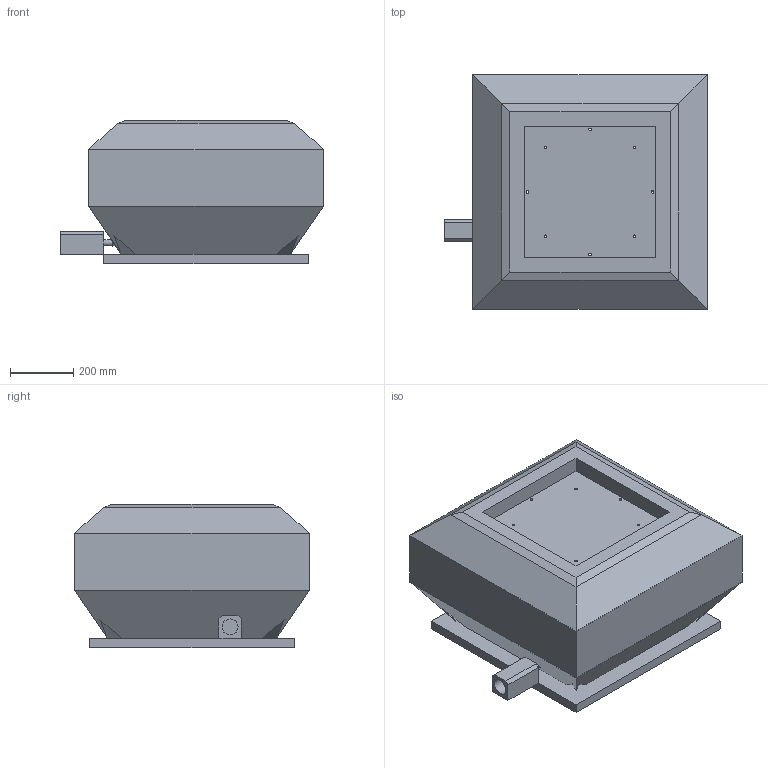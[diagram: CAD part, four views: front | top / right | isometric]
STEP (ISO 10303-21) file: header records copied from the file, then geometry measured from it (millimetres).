
FILE_DESCRIPTION(/* description */ (''),/* implementation_level */ '2;1');
FILE_NAME(/* name */ 'Z:\Output\VDD_355-4-07318-001.stp',/* time_stamp */ '2017-09-26T12:11:40+02:00',/* author */ ('engineering1'),/* organization */ (''),/* preprocessor_version */ 'ST-DEVELOPER v16.5',/* originating_system */ 'Autodesk Inventor 2017',/* authorisation */ '');
FILE_SCHEMA (('AUTOMOTIVE_DESIGN { 1 0 10303 214 3 1 1 }'));
Length unit declared in the file: millimetre
Products named in the file (1): VD-1
Bounding box: 828.5 x 740 x 451 mm (x, y, z)
Volume: 190901056.2 mm3; surface area: 2540159 mm2
Topology: 1 solids, 1 shells, 61 faces, 148 edges, 94 vertices
Faces by surface type: plane 50, cylinder 10, bspline 1
Full cylindrical faces by diameter (mm): 8 x8, 20 x1, 50 x1
Entity records: 1887 total; most frequent: CARTESIAN_POINT 357, DIRECTION 279, ORIENTED_EDGE 276, EDGE_CURVE 137, LINE 115, VECTOR 115, EDGE_LOOP 93, VERTEX_POINT 93
